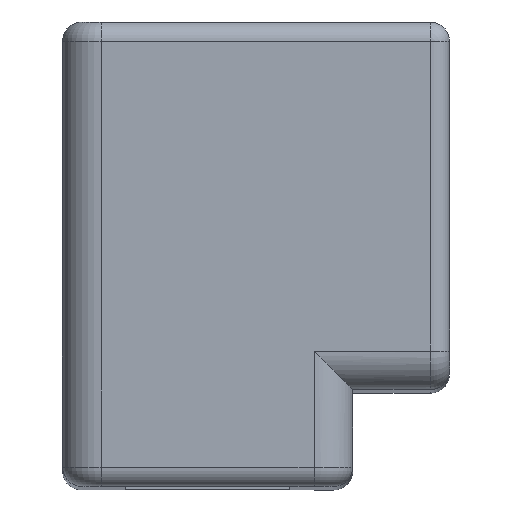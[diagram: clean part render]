
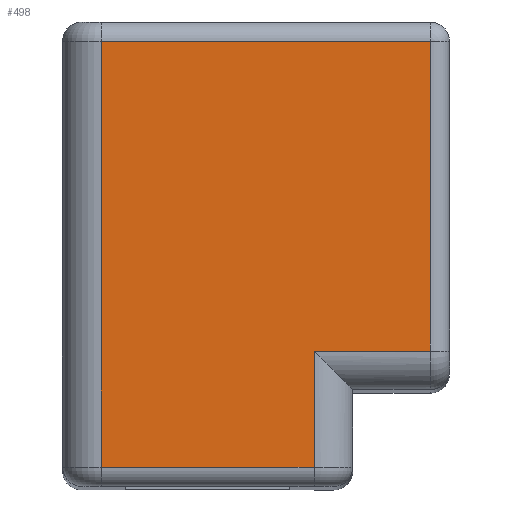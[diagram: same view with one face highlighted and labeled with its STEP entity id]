
A CAD part, top view. The second image highlights one B-rep face of the part: STEP entity #498.
In plain terms, the highlighted planar face has unit normal (0, 0, 1).
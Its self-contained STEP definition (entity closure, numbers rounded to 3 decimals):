
#16 = EDGE_CURVE ( 'NONE', #908, #925, #233, .T. ) ;
#17 = EDGE_CURVE ( 'NONE', #925, #921, #232, .T. ) ;
#38 = EDGE_CURVE ( 'NONE', #921, #933, #209, .T. ) ;
#74 = AXIS2_PLACEMENT_3D ( 'NONE', #653, #648, #647 ) ;
#107 = EDGE_CURVE ( 'NONE', #932, #898, #164, .T. ) ;
#120 = VECTOR ( 'NONE', #827, 1000. ) ;
#122 = LINE ( 'NONE', #828, #120 ) ;
#127 = VECTOR ( 'NONE', #836, 1000. ) ;
#128 = LINE ( 'NONE', #837, #127 ) ;
#157 = VECTOR ( 'NONE', #870, 1000. ) ;
#164 = LINE ( 'NONE', #873, #157 ) ;
#209 = LINE ( 'NONE', #613, #222 ) ;
#222 = VECTOR ( 'NONE', #973, 1000. ) ;
#227 = VECTOR ( 'NONE', #731, 1000. ) ;
#229 = VECTOR ( 'NONE', #741, 1000. ) ;
#232 = LINE ( 'NONE', #747, #227 ) ;
#233 = LINE ( 'NONE', #755, #229 ) ;
#241 = EDGE_LOOP ( 'NONE', ( #313, #314, #315, #316, #317, #318 ) ) ;
#313 = ORIENTED_EDGE ( 'NONE', *, *, #442, .F. ) ;
#314 = ORIENTED_EDGE ( 'NONE', *, *, #16, .T. ) ;
#315 = ORIENTED_EDGE ( 'NONE', *, *, #17, .T. ) ;
#316 = ORIENTED_EDGE ( 'NONE', *, *, #38, .T. ) ;
#317 = ORIENTED_EDGE ( 'NONE', *, *, #445, .T. ) ;
#318 = ORIENTED_EDGE ( 'NONE', *, *, #107, .T. ) ;
#442 = EDGE_CURVE ( 'NONE', #908, #898, #128, .T. ) ;
#445 = EDGE_CURVE ( 'NONE', #933, #932, #122, .T. ) ;
#498 = ADVANCED_FACE ( 'NONE', ( #986 ), #652, .F. ) ;
#516 = CARTESIAN_POINT ( 'NONE',  ( 11.5, 7., 98.5 ) ) ;
#529 = CARTESIAN_POINT ( 'NONE',  ( 11.5, 23., 98.5 ) ) ;
#532 = CARTESIAN_POINT ( 'NONE',  ( 5.5, 7., 98.5 ) ) ;
#533 = CARTESIAN_POINT ( 'NONE',  ( 5.5, 1., 98.5 ) ) ;
#566 = CARTESIAN_POINT ( 'NONE',  ( -5.5, 1., 98.5 ) ) ;
#575 = CARTESIAN_POINT ( 'NONE',  ( -5.5, 23., 98.5 ) ) ;
#613 = CARTESIAN_POINT ( 'NONE',  ( 5.5, 7., 98.5 ) ) ;
#647 = DIRECTION ( 'NONE',  ( 0., 1., 0. ) ) ;
#648 = DIRECTION ( 'NONE',  ( 0., 0., -1. ) ) ;
#652 = PLANE ( 'NONE',  #74 ) ;
#653 = CARTESIAN_POINT ( 'NONE',  ( 5.5, 0., 98.5 ) ) ;
#731 = DIRECTION ( 'NONE',  ( 0., 1., 0. ) ) ;
#741 = DIRECTION ( 'NONE',  ( 1., 0., 0. ) ) ;
#747 = CARTESIAN_POINT ( 'NONE',  ( 5.5, 0., 98.5 ) ) ;
#755 = CARTESIAN_POINT ( 'NONE',  ( 5.5, 1., 98.5 ) ) ;
#827 = DIRECTION ( 'NONE',  ( 0., 1., 0. ) ) ;
#828 = CARTESIAN_POINT ( 'NONE',  ( 11.5, 0., 98.5 ) ) ;
#836 = DIRECTION ( 'NONE',  ( 0., 1., 0. ) ) ;
#837 = CARTESIAN_POINT ( 'NONE',  ( -5.5, 0., 98.5 ) ) ;
#870 = DIRECTION ( 'NONE',  ( -1., 0., 0. ) ) ;
#873 = CARTESIAN_POINT ( 'NONE',  ( 5.5, 23., 98.5 ) ) ;
#898 = VERTEX_POINT ( 'NONE', #575 ) ;
#908 = VERTEX_POINT ( 'NONE', #566 ) ;
#921 = VERTEX_POINT ( 'NONE', #532 ) ;
#925 = VERTEX_POINT ( 'NONE', #533 ) ;
#932 = VERTEX_POINT ( 'NONE', #529 ) ;
#933 = VERTEX_POINT ( 'NONE', #516 ) ;
#973 = DIRECTION ( 'NONE',  ( 1., 0., 0. ) ) ;
#986 = FACE_OUTER_BOUND ( 'NONE', #241, .T. ) ;
